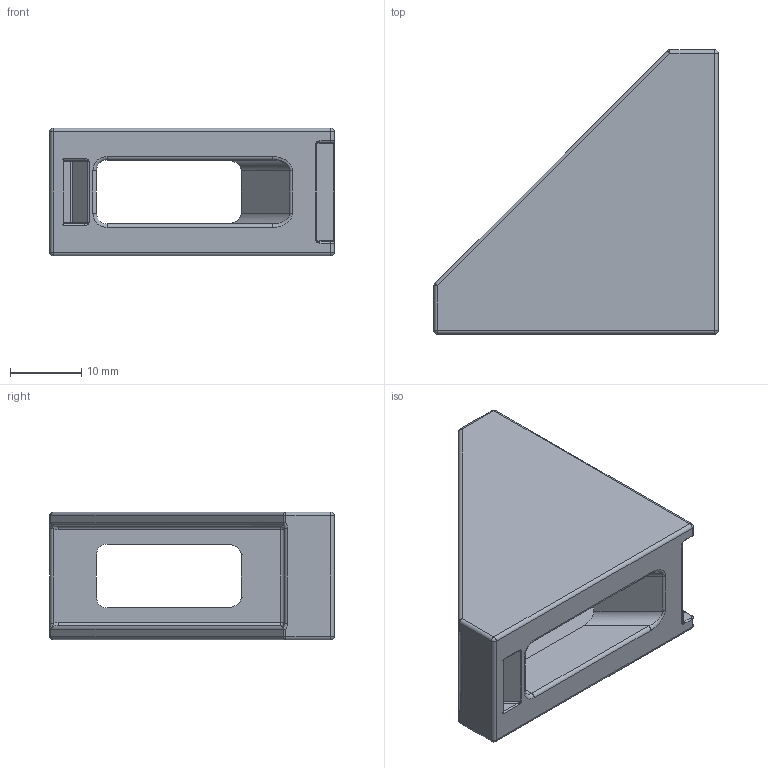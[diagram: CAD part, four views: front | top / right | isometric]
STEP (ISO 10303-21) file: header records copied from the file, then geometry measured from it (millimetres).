
FILE_DESCRIPTION(/* description */ ('STEP AP203'),/* implementation_level */ '2;1');
FILE_NAME(/* name */ 'C:\Users\Stefan.Nesic\Desktop\01010STEP\000Verifica\CORRETTI\SQ18-40V8.stp',/* time_stamp */ '2022-07-12T13:51:26+02:00',/* author */ (''),/* organization */ (''),/* preprocessor_version */ 'ST-DEVELOPER v18.1',/* originating_system */ 'Autodesk Inventor 2021',/* authorisation */ '');
FILE_SCHEMA (('AUTOMOTIVE_DESIGN { 1 0 10303 214 3 1 1 }'));
Length unit declared in the file: millimetre
Products named in the file (1): SQ18-40V8
Bounding box: 40 x 40 x 18 mm (x, y, z)
Volume: 8243.9 mm3; surface area: 5984 mm2
Topology: 1 solids, 1 shells, 143 faces, 327 edges, 176 vertices
Faces by surface type: cylinder 68, plane 33, bspline 20, sphere 16, torus 6
Entity records: 5524 total; most frequent: CARTESIAN_POINT 2427, DIRECTION 655, ORIENTED_EDGE 630, EDGE_CURVE 315, AXIS2_PLACEMENT_3D 252, VERTEX_POINT 176, LINE 151, VECTOR 151
